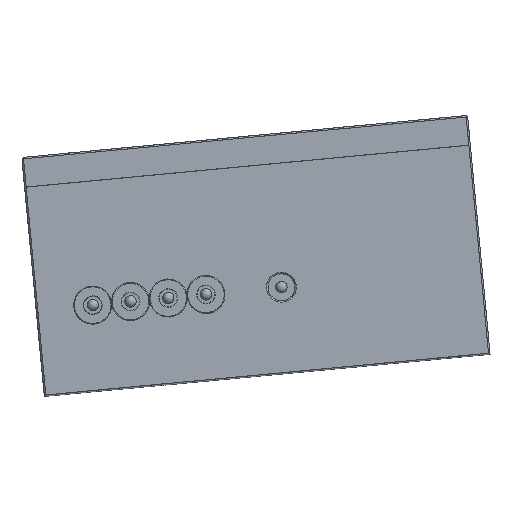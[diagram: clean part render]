
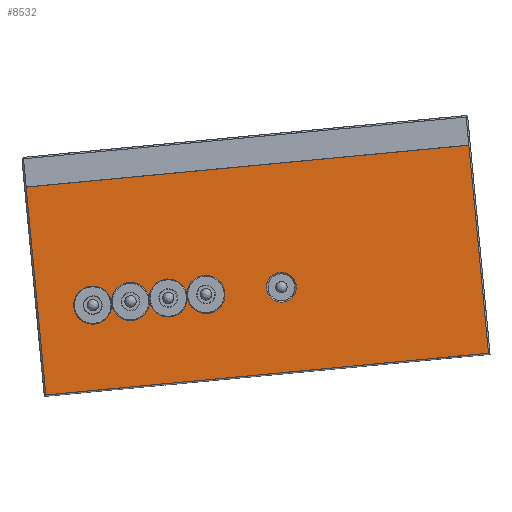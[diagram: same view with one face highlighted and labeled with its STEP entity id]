
A CAD part, top view. The second image highlights one B-rep face of the part: STEP entity #8532.
In plain terms, the highlighted planar face has unit normal (0, 0, 1) as drawn and (1, 0, 0) by its records, which use the part's own axes.
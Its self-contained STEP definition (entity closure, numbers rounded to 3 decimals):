
#198 = DIRECTION ( 'NONE',  ( -1., 0., 0. ) ) ;
#223 = FACE_BOUND ( 'NONE', #1988, .T. ) ;
#433 = VERTEX_POINT ( 'NONE', #6126 ) ;
#444 = EDGE_CURVE ( 'NONE', #3838, #5041, #7278, .T. ) ;
#573 = DIRECTION ( 'NONE',  ( 0., 0., -1. ) ) ;
#577 = DIRECTION ( 'NONE',  ( -1., 0., 0. ) ) ;
#632 = VERTEX_POINT ( 'NONE', #8069 ) ;
#646 = AXIS2_PLACEMENT_3D ( 'NONE', #4913, #198, #1043 ) ;
#787 = CARTESIAN_POINT ( 'NONE',  ( 24.643, 2.7, 9.771 ) ) ;
#837 = CARTESIAN_POINT ( 'NONE',  ( 24.643, 0., -16.327 ) ) ;
#860 = CARTESIAN_POINT ( 'NONE',  ( 24.643, 2.7, 4.691 ) ) ;
#884 = DIRECTION ( 'NONE',  ( 0., 0., -1. ) ) ;
#1043 = DIRECTION ( 'NONE',  ( 0., 0., -1. ) ) ;
#1088 = CARTESIAN_POINT ( 'NONE',  ( 24.643, 0., 13.571 ) ) ;
#1103 = EDGE_CURVE ( 'NONE', #1704, #6906, #10395, .T. ) ;
#1122 = DIRECTION ( 'NONE',  ( 1., 0., 0. ) ) ;
#1150 = DIRECTION ( 'NONE',  ( -1., 0., 0. ) ) ;
#1234 = LINE ( 'NONE', #7970, #4980 ) ;
#1330 = ORIENTED_EDGE ( 'NONE', *, *, #5634, .T. ) ;
#1438 = VERTEX_POINT ( 'NONE', #2914 ) ;
#1561 = CARTESIAN_POINT ( 'NONE',  ( 24.643, 2.7, 6.031 ) ) ;
#1670 = DIRECTION ( 'NONE',  ( 0., 0., -1. ) ) ;
#1690 = ORIENTED_EDGE ( 'NONE', *, *, #3426, .T. ) ;
#1704 = VERTEX_POINT ( 'NONE', #1781 ) ;
#1776 = CARTESIAN_POINT ( 'NONE',  ( 24.643, 2.7, 8.431 ) ) ;
#1781 = CARTESIAN_POINT ( 'NONE',  ( 24.643, 2.7, -3.929 ) ) ;
#1822 = FACE_OUTER_BOUND ( 'NONE', #4964, .T. ) ;
#1835 = VERTEX_POINT ( 'NONE', #1776 ) ;
#1892 = DIRECTION ( 'NONE',  ( 0., 0., -1. ) ) ;
#1942 = DIRECTION ( 'NONE',  ( -1., 0., 0. ) ) ;
#1974 = ORIENTED_EDGE ( 'NONE', *, *, #6028, .T. ) ;
#1988 = EDGE_LOOP ( 'NONE', ( #1974, #1330 ) ) ;
#2005 = CARTESIAN_POINT ( 'NONE',  ( 24.643, 2.7, -2.929 ) ) ;
#2090 = CIRCLE ( 'NONE', #9500, 1.2 ) ;
#2212 = AXIS2_PLACEMENT_3D ( 'NONE', #5482, #577, #6336 ) ;
#2345 = CIRCLE ( 'NONE', #9522, 1.2 ) ;
#2356 = FACE_BOUND ( 'NONE', #4185, .T. ) ;
#2444 = VECTOR ( 'NONE', #4143, 1000. ) ;
#2717 = ORIENTED_EDGE ( 'NONE', *, *, #9139, .T. ) ;
#2844 = DIRECTION ( 'NONE',  ( 0., 0., -1. ) ) ;
#2914 = CARTESIAN_POINT ( 'NONE',  ( 24.643, 2.7, 0.951 ) ) ;
#3056 = CARTESIAN_POINT ( 'NONE',  ( 24.643, 2.7, -2.929 ) ) ;
#3071 = DIRECTION ( 'NONE',  ( -1., 0., 0. ) ) ;
#3147 = VECTOR ( 'NONE', #7797, 1000. ) ;
#3208 = DIRECTION ( 'NONE',  ( -1., 0., 0. ) ) ;
#3264 = EDGE_CURVE ( 'NONE', #1438, #433, #4809, .T. ) ;
#3298 = DIRECTION ( 'NONE',  ( -1., 0., 0. ) ) ;
#3426 = EDGE_CURVE ( 'NONE', #8190, #1835, #6902, .T. ) ;
#3515 = EDGE_CURVE ( 'NONE', #5041, #3838, #2090, .T. ) ;
#3838 = VERTEX_POINT ( 'NONE', #5826 ) ;
#3908 = LINE ( 'NONE', #8551, #5808 ) ;
#3943 = VERTEX_POINT ( 'NONE', #5088 ) ;
#3962 = ORIENTED_EDGE ( 'NONE', *, *, #444, .T. ) ;
#3967 = DIRECTION ( 'NONE',  ( 0., 0., -1. ) ) ;
#4050 = ORIENTED_EDGE ( 'NONE', *, *, #9944, .T. ) ;
#4077 = ORIENTED_EDGE ( 'NONE', *, *, #6907, .T. ) ;
#4143 = DIRECTION ( 'NONE',  ( 0., 1., 0. ) ) ;
#4185 = EDGE_LOOP ( 'NONE', ( #1690, #10345 ) ) ;
#4325 = AXIS2_PLACEMENT_3D ( 'NONE', #2005, #7806, #2844 ) ;
#4488 = AXIS2_PLACEMENT_3D ( 'NONE', #10438, #10357, #1892 ) ;
#4559 = FACE_BOUND ( 'NONE', #4587, .T. ) ;
#4587 = EDGE_LOOP ( 'NONE', ( #4863, #7325 ) ) ;
#4800 = EDGE_LOOP ( 'NONE', ( #6945, #3962 ) ) ;
#4809 = CIRCLE ( 'NONE', #4488, 1.2 ) ;
#4863 = ORIENTED_EDGE ( 'NONE', *, *, #3264, .T. ) ;
#4906 = LINE ( 'NONE', #837, #2444 ) ;
#4913 = CARTESIAN_POINT ( 'NONE',  ( 24.643, 2.7, 7.231 ) ) ;
#4964 = EDGE_LOOP ( 'NONE', ( #4050, #5953, #4077, #2717 ) ) ;
#4980 = VECTOR ( 'NONE', #573, 1000. ) ;
#5041 = VERTEX_POINT ( 'NONE', #7919 ) ;
#5086 = VERTEX_POINT ( 'NONE', #7880 ) ;
#5088 = CARTESIAN_POINT ( 'NONE',  ( 24.643, 2.7, 5.891 ) ) ;
#5140 = VERTEX_POINT ( 'NONE', #8949 ) ;
#5182 = AXIS2_PLACEMENT_3D ( 'NONE', #6107, #1150, #6961 ) ;
#5482 = CARTESIAN_POINT ( 'NONE',  ( 24.643, 2.7, 4.691 ) ) ;
#5486 = CARTESIAN_POINT ( 'NONE',  ( 24.643, 2.7, 3.491 ) ) ;
#5519 = AXIS2_PLACEMENT_3D ( 'NONE', #3056, #1942, #884 ) ;
#5613 = EDGE_CURVE ( 'NONE', #433, #1438, #6524, .T. ) ;
#5634 = EDGE_CURVE ( 'NONE', #3943, #8712, #2345, .T. ) ;
#5808 = VECTOR ( 'NONE', #7757, 1000. ) ;
#5826 = CARTESIAN_POINT ( 'NONE',  ( 24.643, 2.7, 10.971 ) ) ;
#5879 = EDGE_CURVE ( 'NONE', #1835, #8190, #6357, .T. ) ;
#5953 = ORIENTED_EDGE ( 'NONE', *, *, #6929, .T. ) ;
#6028 = EDGE_CURVE ( 'NONE', #8712, #3943, #10676, .T. ) ;
#6107 = CARTESIAN_POINT ( 'NONE',  ( 24.643, 2.7, 7.231 ) ) ;
#6126 = CARTESIAN_POINT ( 'NONE',  ( 24.643, 2.7, 3.351 ) ) ;
#6170 = ORIENTED_EDGE ( 'NONE', *, *, #1103, .T. ) ;
#6336 = DIRECTION ( 'NONE',  ( 0., 0., -1. ) ) ;
#6357 = CIRCLE ( 'NONE', #5182, 1.2 ) ;
#6365 = FACE_BOUND ( 'NONE', #4800, .T. ) ;
#6524 = CIRCLE ( 'NONE', #10643, 1.2 ) ;
#6636 = DIRECTION ( 'NONE',  ( -1., 0., 0. ) ) ;
#6902 = CIRCLE ( 'NONE', #646, 1.2 ) ;
#6906 = VERTEX_POINT ( 'NONE', #10282 ) ;
#6907 = EDGE_CURVE ( 'NONE', #5140, #632, #3908, .T. ) ;
#6929 = EDGE_CURVE ( 'NONE', #8778, #5140, #7268, .T. ) ;
#6934 = DIRECTION ( 'NONE',  ( 0., 0., -1. ) ) ;
#6945 = ORIENTED_EDGE ( 'NONE', *, *, #3515, .T. ) ;
#6961 = DIRECTION ( 'NONE',  ( 0., 0., -1. ) ) ;
#7268 = LINE ( 'NONE', #9471, #3147 ) ;
#7278 = CIRCLE ( 'NONE', #8165, 1.2 ) ;
#7325 = ORIENTED_EDGE ( 'NONE', *, *, #5613, .T. ) ;
#7464 = CARTESIAN_POINT ( 'NONE',  ( 24.643, 10.995, -16.327 ) ) ;
#7724 = PLANE ( 'NONE',  #10024 ) ;
#7757 = DIRECTION ( 'NONE',  ( 0., -1., 0. ) ) ;
#7772 = CIRCLE ( 'NONE', #4325, 1. ) ;
#7797 = DIRECTION ( 'NONE',  ( 0., 0., 1. ) ) ;
#7806 = DIRECTION ( 'NONE',  ( -1., 0., 0. ) ) ;
#7880 = CARTESIAN_POINT ( 'NONE',  ( 24.643, -2.995, -16.327 ) ) ;
#7919 = CARTESIAN_POINT ( 'NONE',  ( 24.643, 2.7, 8.571 ) ) ;
#7970 = CARTESIAN_POINT ( 'NONE',  ( 24.643, -2.995, 13.571 ) ) ;
#8069 = CARTESIAN_POINT ( 'NONE',  ( 24.643, -2.995, 13.469 ) ) ;
#8119 = DIRECTION ( 'NONE',  ( 0., 0., -1. ) ) ;
#8165 = AXIS2_PLACEMENT_3D ( 'NONE', #9698, #3071, #8119 ) ;
#8190 = VERTEX_POINT ( 'NONE', #1561 ) ;
#8261 = CARTESIAN_POINT ( 'NONE',  ( 24.643, 2.7, 2.151 ) ) ;
#8532 = ADVANCED_FACE ( 'NONE', ( #1822, #10418, #223, #6365, #2356, #4559 ), #7724, .T. ) ;
#8551 = CARTESIAN_POINT ( 'NONE',  ( 24.643, 0., 13.469 ) ) ;
#8712 = VERTEX_POINT ( 'NONE', #5486 ) ;
#8778 = VERTEX_POINT ( 'NONE', #7464 ) ;
#8949 = CARTESIAN_POINT ( 'NONE',  ( 24.643, 10.995, 13.469 ) ) ;
#9058 = ORIENTED_EDGE ( 'NONE', *, *, #9635, .T. ) ;
#9113 = DIRECTION ( 'NONE',  ( 0., 0., -1. ) ) ;
#9139 = EDGE_CURVE ( 'NONE', #632, #5086, #1234, .T. ) ;
#9258 = EDGE_LOOP ( 'NONE', ( #6170, #9058 ) ) ;
#9471 = CARTESIAN_POINT ( 'NONE',  ( 24.643, 10.995, 13.471 ) ) ;
#9500 = AXIS2_PLACEMENT_3D ( 'NONE', #787, #3208, #3967 ) ;
#9522 = AXIS2_PLACEMENT_3D ( 'NONE', #860, #6636, #1670 ) ;
#9635 = EDGE_CURVE ( 'NONE', #6906, #1704, #7772, .T. ) ;
#9698 = CARTESIAN_POINT ( 'NONE',  ( 24.643, 2.7, 9.771 ) ) ;
#9944 = EDGE_CURVE ( 'NONE', #5086, #8778, #4906, .T. ) ;
#10024 = AXIS2_PLACEMENT_3D ( 'NONE', #1088, #1122, #6934 ) ;
#10282 = CARTESIAN_POINT ( 'NONE',  ( 24.643, 2.7, -1.929 ) ) ;
#10345 = ORIENTED_EDGE ( 'NONE', *, *, #5879, .T. ) ;
#10357 = DIRECTION ( 'NONE',  ( -1., 0., 0. ) ) ;
#10395 = CIRCLE ( 'NONE', #5519, 1. ) ;
#10418 = FACE_BOUND ( 'NONE', #9258, .T. ) ;
#10438 = CARTESIAN_POINT ( 'NONE',  ( 24.643, 2.7, 2.151 ) ) ;
#10643 = AXIS2_PLACEMENT_3D ( 'NONE', #8261, #3298, #9113 ) ;
#10676 = CIRCLE ( 'NONE', #2212, 1.2 ) ;
